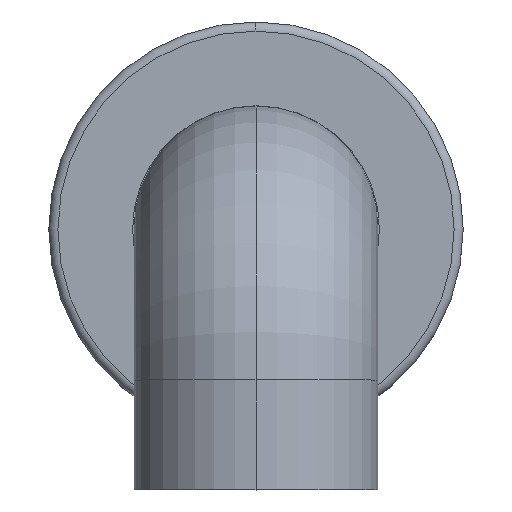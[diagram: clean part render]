
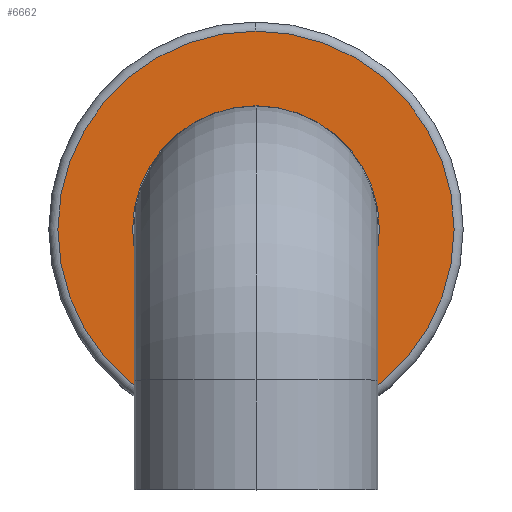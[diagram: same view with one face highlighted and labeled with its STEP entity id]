
A CAD part, top view. The second image highlights one B-rep face of the part: STEP entity #6662.
In plain terms, the highlighted planar face has unit normal (0, 0, 1).
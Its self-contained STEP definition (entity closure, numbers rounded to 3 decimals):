
#278 = VERTEX_POINT ( 'NONE', #3544 ) ;
#586 = CARTESIAN_POINT ( 'NONE',  ( 0., 0., 13.8 ) ) ;
#657 = VERTEX_POINT ( 'NONE', #1741 ) ;
#1034 = EDGE_CURVE ( 'NONE', #5199, #657, #8796, .T. ) ;
#1683 = CIRCLE ( 'NONE', #6395, 20.25 ) ;
#1741 = CARTESIAN_POINT ( 'NONE',  ( 0., -20.25, 13.8 ) ) ;
#1959 = CARTESIAN_POINT ( 'NONE',  ( 0., 0., 13.8 ) ) ;
#1990 = AXIS2_PLACEMENT_3D ( 'NONE', #3212, #5496, #6988 ) ;
#2524 = EDGE_CURVE ( 'NONE', #278, #8579, #7370, .T. ) ;
#2751 = FACE_BOUND ( 'NONE', #10017, .T. ) ;
#2919 = DIRECTION ( 'NONE',  ( 0., 1., 0. ) ) ;
#3136 = EDGE_CURVE ( 'NONE', #657, #5199, #1683, .T. ) ;
#3212 = CARTESIAN_POINT ( 'NONE',  ( 0., 0., 13.8 ) ) ;
#3319 = DIRECTION ( 'NONE',  ( 0., -1., 0. ) ) ;
#3327 = ORIENTED_EDGE ( 'NONE', *, *, #3136, .T. ) ;
#3395 = ORIENTED_EDGE ( 'NONE', *, *, #2524, .F. ) ;
#3544 = CARTESIAN_POINT ( 'NONE',  ( 0., -32.5, 13.8 ) ) ;
#3572 = AXIS2_PLACEMENT_3D ( 'NONE', #3970, #5402, #6163 ) ;
#3970 = CARTESIAN_POINT ( 'NONE',  ( 0., 0., 13.8 ) ) ;
#4323 = DIRECTION ( 'NONE',  ( 0., 0., -1. ) ) ;
#5091 = CARTESIAN_POINT ( 'NONE',  ( 0., 0., 13.8 ) ) ;
#5199 = VERTEX_POINT ( 'NONE', #6589 ) ;
#5402 = DIRECTION ( 'NONE',  ( 0., 0., -1. ) ) ;
#5496 = DIRECTION ( 'NONE',  ( 0., 0., -1. ) ) ;
#5852 = FACE_OUTER_BOUND ( 'NONE', #9265, .T. ) ;
#5881 = EDGE_CURVE ( 'NONE', #8579, #278, #7831, .T. ) ;
#6163 = DIRECTION ( 'NONE',  ( 0., 1., 0. ) ) ;
#6169 = ORIENTED_EDGE ( 'NONE', *, *, #1034, .T. ) ;
#6185 = AXIS2_PLACEMENT_3D ( 'NONE', #586, #9914, #2919 ) ;
#6395 = AXIS2_PLACEMENT_3D ( 'NONE', #1959, #9767, #8350 ) ;
#6589 = CARTESIAN_POINT ( 'NONE',  ( 0., 20.25, 13.8 ) ) ;
#6662 = ADVANCED_FACE ( 'NONE', ( #2751, #5852 ), #8982, .F. ) ;
#6988 = DIRECTION ( 'NONE',  ( 0., -1., 0. ) ) ;
#7339 = AXIS2_PLACEMENT_3D ( 'NONE', #5091, #4323, #3319 ) ;
#7370 = CIRCLE ( 'NONE', #1990, 32.5 ) ;
#7831 = CIRCLE ( 'NONE', #3572, 32.5 ) ;
#8350 = DIRECTION ( 'NONE',  ( 0., -1., 0. ) ) ;
#8579 = VERTEX_POINT ( 'NONE', #8756 ) ;
#8756 = CARTESIAN_POINT ( 'NONE',  ( 0., 32.5, 13.8 ) ) ;
#8796 = CIRCLE ( 'NONE', #6185, 20.25 ) ;
#8982 = PLANE ( 'NONE',  #7339 ) ;
#9265 = EDGE_LOOP ( 'NONE', ( #3395, #9879 ) ) ;
#9767 = DIRECTION ( 'NONE',  ( 0., 0., -1. ) ) ;
#9879 = ORIENTED_EDGE ( 'NONE', *, *, #5881, .F. ) ;
#9914 = DIRECTION ( 'NONE',  ( 0., 0., -1. ) ) ;
#10017 = EDGE_LOOP ( 'NONE', ( #3327, #6169 ) ) ;
